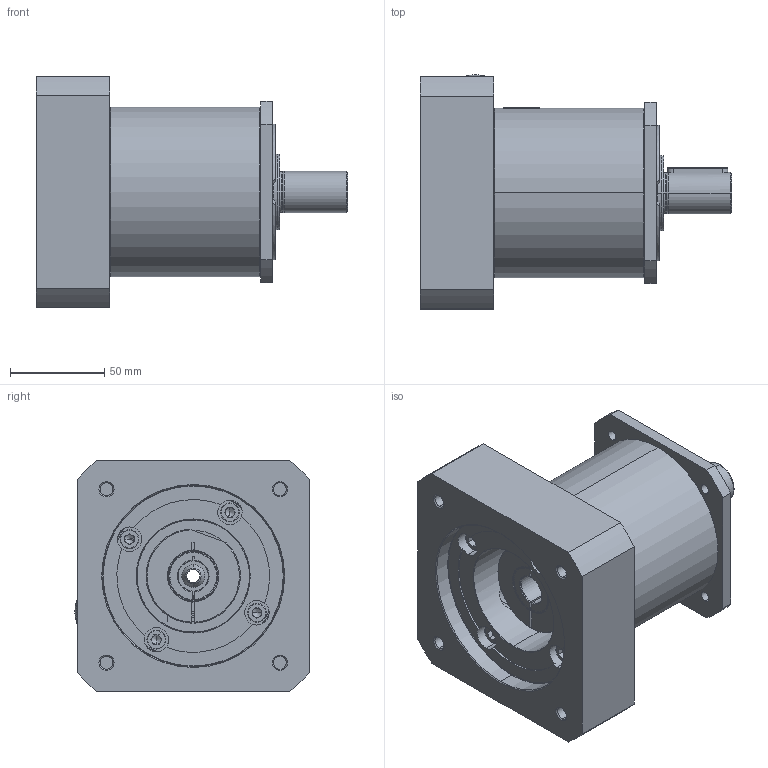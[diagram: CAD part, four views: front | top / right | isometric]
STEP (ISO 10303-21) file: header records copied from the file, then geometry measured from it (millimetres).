
FILE_DESCRIPTION (( 'STEP AP214' ), '1' );
FILE_NAME ('AL-034-0RR-FFF-MMM-S-LL-XXX-CXX-0000.STEP', '2019-10-23T15:38:08', ( '' ), ( '' ), 'SwSTEP 2.0', 'SolidWorks 2019', '' );
FILE_SCHEMA (( 'AUTOMOTIVE_DESIGN' ));
Length unit declared in the file: millimetre
Products named in the file (1): AL-034-0RR-FFF-MMM-S-LL-XXX-CXX-0000
Bounding box: 165 x 124.27 x 123 mm (x, y, z)
Surface area: 106675.4 mm2 (no closed solid volume)
Topology: 0 solids, 75 shells, 385 faces, 2161 edges, 1812 vertices
Faces by surface type: plane 188, cylinder 99, cone 62, torus 30, bspline 4, sphere 2
Entity records: 31892 total; most frequent: CARTESIAN_POINT 12260, ORIENTED_EDGE 2828, DIRECTION 2686, EDGE_CURVE 2145, VERTEX_POINT 1812, LINE 1078, VECTOR 1078, AXIS2_PLACEMENT_3D 804
